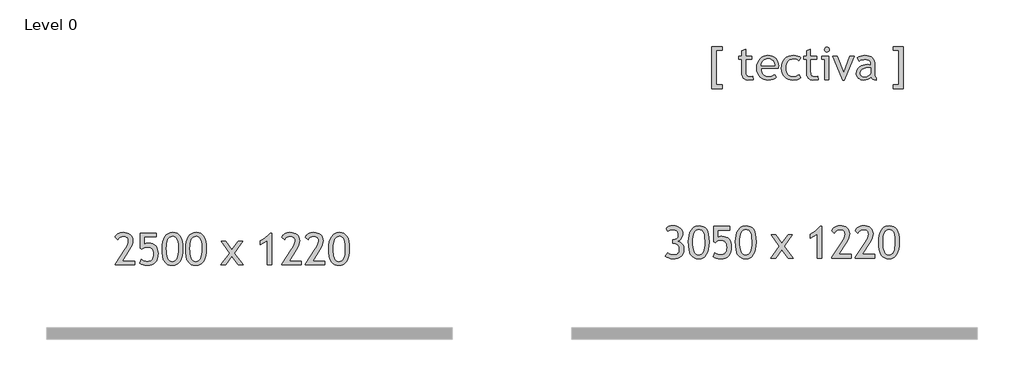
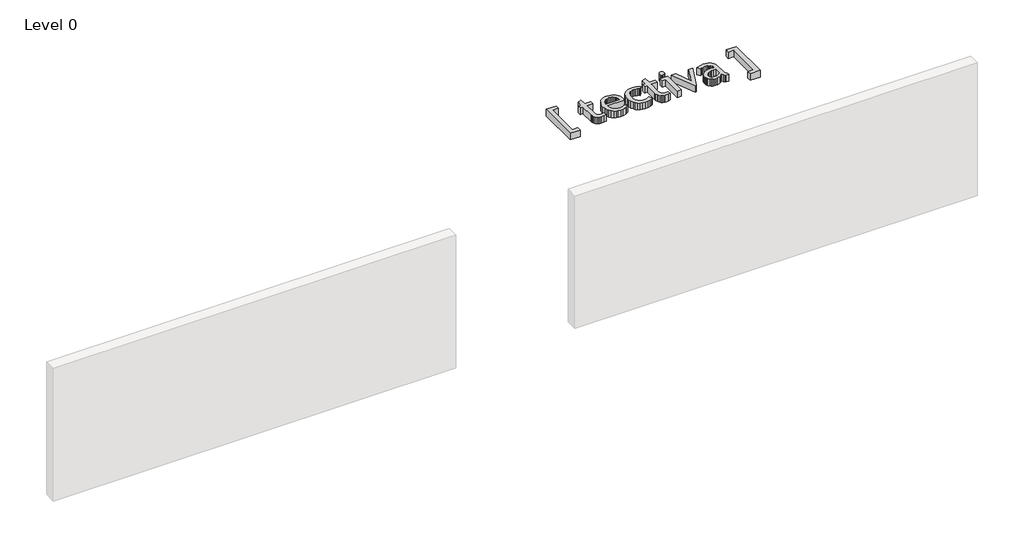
# One storey, part 5 of 5: 3 proxies.
"""IFC4 building model written with IfcOpenShell, lengths in millimetres."""

from ifc_helpers import new_model, si_unit, origin, origin_with_axes, place, context, project, spatial, polyline, outline, extrude, element, save

model = new_model("IFC4")

# Units and contexts
model_context = context("Model", 3, world=origin())
ifc_project = project(units=[si_unit("LENGTHUNIT", "METRE", prefix="MILLI")], contexts=[model_context])

# Site, building, storey
site = spatial("IfcSite", under=ifc_project)
building = spatial("IfcBuilding", under=site)
storey = spatial("IfcBuildingStorey", under=building, Name="Level 0", Elevation=0.0)

# Proxies
placement = place(None, origin())
element("IfcBuildingElementProxy", 1, Name="600mm Arial", ObjectType="600mm Arial", at=placement, inside=storey, context=model_context, shape_type="SweptSolid", body=[
    extrude(outline(polyline([(-7733.7647165, 7804.2624364), (-7733.7647165, 7822.6151906), (-7517.0539114, 8144.6226058), (-7487.2886175, 8193.3083844), (-7466.0276932, 8238.1474999), (-7453.2711386, 8279.1399522), (-7449.0189538, 8316.2857414), (-7450.6844894, 8338.0970166), (-7455.6810963, 8357.0001217), (-7464.0087744, 8372.9950568), (-7475.6675237, 8386.0818219), (-7490.6573443, 8396.260417), (-7508.9782361, 8403.5308421), (-7530.6301992, 8407.8930971), (-7555.6132334, 8409.3471821), (-7592.2492239, 8404.2955402), (-7626.5216021, 8389.1406143), (-7655.0471582, 8366.2923622), (-7674.4426826, 8338.1607414), (-7733.7647165, 8389.3259957), (-7724.0032295, 8411.6760354), (-7710.4761837, 8431.6392902), (-7693.1835791, 8449.21576), (-7672.1254157, 8464.4054448), (-7647.9852872, 8476.6522007), (-7621.4467875, 8485.3998834), (-7592.5099164, 8490.648493), (-7561.1746741, 8492.3980296), (-7515.1653389, 8489.5883434), (-7474.4625449, 8481.1592849), (-7439.0662922, 8467.110854), (-7408.9765809, 8447.4430508), (-7384.9696953, 8422.6309149), (-7367.8219199, 8393.1494861), (-7357.5332546, 8358.9987645), (-7354.1036996, 8320.1787499), (-7358.6803018, 8279.68451), (-7372.4101084, 8234.2081461), (-7395.2931196, 8183.7496583), (-7427.3293351, 8128.3090465), (-7579.5274284, 7887.3132838), (-7318.5104792, 7887.3132838), (-7318.5104792, 7804.2624364), (-7733.7647165, 7804.2624364)])), origin_with_axes(), (0.0, 0.0, 1.0), 150.0),
    extrude(outline(polyline([(-7166.8685301, 8136.4658262), (-7199.8664114, 8157.7846821), (-7199.8664114, 8480.5336228), (-6855.7986148, 8480.5336228), (-6855.7986148, 8397.4827753), (-7116.815564, 8397.4827753), (-7116.815564, 8241.577055), (-7097.5127303, 8252.68835), (-7075.7535936, 8260.6249893), (-7051.538154, 8265.3869729), (-7024.8664114, 8266.9743008), (-6978.0286532, 8263.4288823), (-6937.0651667, 8252.792627), (-6901.9759519, 8235.0655349), (-6872.7610089, 8210.2476058), (-6849.7679276, 8178.8833977), (-6833.3442981, 8141.5174681), (-6823.4901204, 8098.1498172), (-6820.2053945, 8048.7804448), (-6823.8203309, 7988.6908163), (-6834.6651402, 7936.6131382), (-6852.7398224, 7892.5474105), (-6878.0443775, 7856.4936334), (-6910.5788055, 7828.4518067), (-6950.3431063, 7808.4219305), (-6997.3372801, 7796.4040048), (-7051.5613267, 7792.3980296), (-7097.7908023, 7795.3641313), (-7139.8955428, 7804.2624364), (-7177.8755481, 7819.0929448), (-7211.7308182, 7839.8556567), (-7176.1375979, 7922.9065041), (-7143.8117239, 7902.1437923), (-7112.0883394, 7887.3132838), (-7080.9674443, 7878.4149787), (-7050.4490385, 7875.448877), (-7018.7314472, 7877.9428356), (-6991.242868, 7885.4247112), (-6967.983301, 7897.894504), (-6948.9527462, 7915.3522139), (-6934.1512035, 7937.7978409), (-6923.5786731, 7965.231385), (-6917.2351548, 7997.6528462), (-6915.1206487, 8035.0622245), (-6917.226465, 8069.951575), (-6923.5439141, 8100.1890121), (-6934.0729958, 8125.7745358), (-6948.8137101, 8146.7081461), (-6967.7660572, 8162.989843), (-6990.9300369, 8174.6196265), (-7018.3056494, 8181.5974966), (-7049.8928945, 8183.9234533), (-7081.6046927, 8180.9573516), (-7111.6712313, 8172.0590465), (-7140.0925105, 8157.228538), (-7166.8685301, 8136.4658262)])), origin_with_axes(), (0.0, 0.0, 1.0), 150.0),
    extrude(outline(polyline([(-6737.154547, 8161.6776906), (-6733.4527131, 8231.4332189), (-6722.3472112, 8294.4339141), (-6703.8380414, 8350.6797761), (-6677.9252038, 8400.170805), (-6645.3038783, 8440.5202157), (-6626.7382252, 8456.37177), (-6606.6692451, 8469.3412234), (-6585.0969381, 8479.4285761), (-6562.0213042, 8486.633828), (-6511.3600555, 8492.3980296), (-6461.4692981, 8487.5897007), (-6418.2059241, 8473.1647139), (-6381.5699337, 8449.1230693), (-6351.5613267, 8415.4647669), (-6328.2032758, 8369.8261943), (-6311.5189538, 8309.8437393), (-6301.5083606, 8235.5174019), (-6298.1714962, 8146.8471821), (-6301.6705693, 8068.7436996), (-6312.1677885, 7999.4226588), (-6329.663154, 7938.8840598), (-6354.1566657, 7887.1279025), (-6385.3818378, 7845.6835831), (-6403.4188644, 7829.4018862), (-6423.0721847, 7816.0804978), (-6444.3417987, 7805.7194179), (-6467.2277064, 7798.3186466), (-6517.8484029, 7792.3980296), (-6568.5328243, 7797.1773927), (-6612.6941392, 7811.5154819), (-6650.3323476, 7835.4122973), (-6681.4474496, 7868.8678389), (-6694.5038005, 7890.1707636), (-6705.8193047, 7915.8446331), (-6723.2277726, 7980.3052065), (-6733.6728534, 8062.249559), (-6737.154547, 8161.6776906)]), holes=[polyline([(-6642.2392928, 8153.1501482), (-6640.394169, 8088.0639128), (-6634.8587975, 8031.6558421), (-6625.6331785, 7983.9259361), (-6612.7173118, 7944.8741948), (-6596.1111976, 7914.5006183), (-6575.8148357, 7892.8052065), (-6551.8282262, 7879.7879594), (-6524.151369, 7875.448877), (-6492.6423317, 7879.2955402), (-6465.5940332, 7890.8355296), (-6443.0064736, 7910.0688452), (-6424.8796529, 7936.9954872), (-6410.9702581, 7973.5503733), (-6401.034976, 8021.6684215), (-6395.0738068, 8081.3496318), (-6393.0867504, 8152.5940041), (-6396.1455428, 8244.7053654), (-6405.3219199, 8308.5924152), (-6421.3110618, 8352.2960698), (-6432.1211122, 8369.5944676), (-6444.8081487, 8383.8572457), (-6459.3374125, 8395.0090929), (-6475.6741445, 8402.974698), (-6493.8183447, 8407.7540611), (-6513.7700131, 8409.3471821), (-6543.8800005, 8405.3441035), (-6569.975323, 8393.3348675), (-6592.0559804, 8373.3194742), (-6610.1219729, 8345.2979236), (-6624.1733003, 8309.2702157), (-6634.2099628, 8265.2363505), (-6640.2319603, 8213.196328), (-6642.2392928, 8153.1501482)])]), origin_with_axes(), (0.0, 0.0, 1.0), 150.0),
    extrude(outline(polyline([(-6238.8494623, 8161.6776906), (-6235.1476283, 8231.4332189), (-6224.0421265, 8294.4339141), (-6205.5329567, 8350.6797761), (-6179.620119, 8400.170805), (-6146.9987936, 8440.5202157), (-6128.4331404, 8456.37177), (-6108.3641604, 8469.3412234), (-6086.7918534, 8479.4285761), (-6063.7162194, 8486.633828), (-6013.0549707, 8492.3980296), (-5963.1642133, 8487.5897007), (-5919.9008394, 8473.1647139), (-5883.2648489, 8449.1230693), (-5853.2562419, 8415.4647669), (-5829.8981911, 8369.8261943), (-5813.213869, 8309.8437393), (-5803.2032758, 8235.5174019), (-5799.8664114, 8146.8471821), (-5803.3654845, 8068.7436996), (-5813.8627038, 7999.4226588), (-5831.3580693, 7938.8840598), (-5855.8515809, 7887.1279025), (-5887.076753, 7845.6835831), (-5905.1137797, 7829.4018862), (-5924.7671, 7816.0804978), (-5946.036714, 7805.7194179), (-5968.9226217, 7798.3186466), (-6019.5433182, 7792.3980296), (-6070.2277395, 7797.1773927), (-6114.3890544, 7811.5154819), (-6152.0272628, 7835.4122973), (-6183.1423648, 7868.8678389), (-6196.1987158, 7890.1707636), (-6207.5142199, 7915.8446331), (-6224.9226879, 7980.3052065), (-6235.3677687, 8062.249559), (-6238.8494623, 8161.6776906)]), holes=[polyline([(-6143.934208, 8153.1501482), (-6142.0890842, 8088.0639128), (-6136.5537128, 8031.6558421), (-6127.3280938, 7983.9259361), (-6114.4122271, 7944.8741948), (-6097.8061128, 7914.5006183), (-6077.5097509, 7892.8052065), (-6053.5231414, 7879.7879594), (-6025.8462843, 7875.448877), (-5994.337247, 7879.2955402), (-5967.2889485, 7890.8355296), (-5944.7013889, 7910.0688452), (-5926.5745682, 7936.9954872), (-5912.6651733, 7973.5503733), (-5902.7298913, 8021.6684215), (-5896.7687221, 8081.3496318), (-5894.7816657, 8152.5940041), (-5897.840458, 8244.7053654), (-5907.0168351, 8308.5924152), (-5923.0059771, 8352.2960698), (-5933.8160274, 8369.5944676), (-5946.503064, 8383.8572457), (-5961.0323277, 8395.0090929), (-5977.3690597, 8402.974698), (-5995.5132599, 8407.7540611), (-6015.4649284, 8409.3471821), (-6045.5749158, 8405.3441035), (-6071.6702382, 8393.3348675), (-6093.7508957, 8373.3194742), (-6111.8168881, 8345.2979236), (-6125.8682156, 8309.2702157), (-6135.904878, 8265.2363505), (-6141.9268755, 8213.196328), (-6143.934208, 8153.1501482)])]), origin_with_axes(), (0.0, 0.0, 1.0), 150.0),
    extrude(outline(polyline([(-5123.595225, 7804.2624364), (-5254.1036996, 7987.0484533), (-5384.6121741, 7804.2624364), (-5491.3918351, 7804.2624364), (-5304.1566657, 8057.1226058), (-5479.5274284, 8302.5675211), (-5384.6121741, 8302.5675211), (-5254.1036996, 8124.6014194), (-5123.595225, 8302.5675211), (-5028.6799707, 8302.5675211), (-5204.0507334, 8057.1226058), (-5016.815564, 7804.2624364), (-5123.595225, 7804.2624364)])), origin_with_axes(), (0.0, 0.0, 1.0), 150.0),
    extrude(outline(polyline([(-4506.6460724, 7804.2624364), (-4506.6460724, 8318.139555), (-4649.0189538, 8231.3810804), (-4649.0189538, 8314.4319279), (-4594.4936625, 8346.8504925), (-4536.5851614, 8389.6040677), (-4483.681957, 8436.2969967), (-4444.1725555, 8480.5336228), (-4411.7308182, 8480.5336228), (-4411.7308182, 7804.2624364), (-4506.6460724, 7804.2624364)])), origin_with_axes(), (0.0, 0.0, 1.0), 150.0),
    extrude(outline(polyline([(-4198.1714962, 7804.2624364), (-4198.1714962, 7822.6151906), (-3981.4606911, 8144.6226058), (-3951.6953971, 8193.3083844), (-3930.4344729, 8238.1474999), (-3917.6779183, 8279.1399522), (-3913.4257334, 8316.2857414), (-3915.0912691, 8338.0970166), (-3920.0878759, 8357.0001217), (-3928.415554, 8372.9950568), (-3940.0743034, 8386.0818219), (-3955.0641239, 8396.260417), (-3973.3850158, 8403.5308421), (-3995.0369788, 8407.8930971), (-4020.0200131, 8409.3471821), (-4056.6560036, 8404.2955402), (-4090.9283818, 8389.1406143), (-4119.4539379, 8366.2923622), (-4138.8494623, 8338.1607414), (-4198.1714962, 8389.3259957), (-4188.4100091, 8411.6760354), (-4174.8829633, 8431.6392902), (-4157.5903587, 8449.21576), (-4136.5321953, 8464.4054448), (-4112.3920669, 8476.6522007), (-4085.8535671, 8485.3998834), (-4056.9166961, 8490.648493), (-4025.5814538, 8492.3980296), (-3979.5721185, 8489.5883434), (-3938.8693246, 8481.1592849), (-3903.4730719, 8467.110854), (-3873.3833606, 8447.4430508), (-3849.376475, 8422.6309149), (-3832.2286996, 8393.1494861), (-3821.9400343, 8358.9987645), (-3818.5104792, 8320.1787499), (-3823.0870814, 8279.68451), (-3836.8168881, 8234.2081461), (-3859.6998992, 8183.7496583), (-3891.7361148, 8128.3090465), (-4043.934208, 7887.3132838), (-3782.9172589, 7887.3132838), (-3782.9172589, 7804.2624364), (-4198.1714962, 7804.2624364)])), origin_with_axes(), (0.0, 0.0, 1.0), 150.0),
    extrude(outline(polyline([(-3699.8664114, 7804.2624364), (-3699.8664114, 7822.6151906), (-3483.1556063, 8144.6226058), (-3453.3903124, 8193.3083844), (-3432.1293881, 8238.1474999), (-3419.3728336, 8279.1399522), (-3415.1206487, 8316.2857414), (-3416.7861843, 8338.0970166), (-3421.7827912, 8357.0001217), (-3430.1104693, 8372.9950568), (-3441.7692186, 8386.0818219), (-3456.7590392, 8396.260417), (-3475.079931, 8403.5308421), (-3496.7318941, 8407.8930971), (-3521.7149284, 8409.3471821), (-3558.3509188, 8404.2955402), (-3592.623297, 8389.1406143), (-3621.1488532, 8366.2923622), (-3640.5443775, 8338.1607414), (-3699.8664114, 8389.3259957), (-3690.1049244, 8411.6760354), (-3676.5778786, 8431.6392902), (-3659.285274, 8449.21576), (-3638.2271106, 8464.4054448), (-3614.0869821, 8476.6522007), (-3587.5484824, 8485.3998834), (-3558.6116114, 8490.648493), (-3527.276369, 8492.3980296), (-3481.2670338, 8489.5883434), (-3440.5642398, 8481.1592849), (-3405.1679872, 8467.110854), (-3375.0782758, 8447.4430508), (-3351.0713902, 8422.6309149), (-3333.9236148, 8393.1494861), (-3323.6349496, 8358.9987645), (-3320.2053945, 8320.1787499), (-3324.7819967, 8279.68451), (-3338.5118034, 8234.2081461), (-3361.3948145, 8183.7496583), (-3393.4310301, 8128.3090465), (-3545.6291233, 7887.3132838), (-3284.6121741, 7887.3132838), (-3284.6121741, 7804.2624364), (-3699.8664114, 7804.2624364)])), origin_with_axes(), (0.0, 0.0, 1.0), 150.0),
    extrude(outline(polyline([(-3201.5613267, 8161.6776906), (-3197.8594927, 8231.4332189), (-3186.7539909, 8294.4339141), (-3168.2448211, 8350.6797761), (-3142.3319834, 8400.170805), (-3109.710658, 8440.5202157), (-3091.1450048, 8456.37177), (-3071.0760248, 8469.3412234), (-3049.5037178, 8479.4285761), (-3026.4280838, 8486.633828), (-2975.7668351, 8492.3980296), (-2925.8760777, 8487.5897007), (-2882.6127038, 8473.1647139), (-2845.9767133, 8449.1230693), (-2815.9681063, 8415.4647669), (-2792.6100555, 8369.8261943), (-2775.9257334, 8309.8437393), (-2765.9151402, 8235.5174019), (-2762.5782758, 8146.8471821), (-2766.0773489, 8068.7436996), (-2776.5745682, 7999.4226588), (-2794.0699337, 7938.8840598), (-2818.5634453, 7887.1279025), (-2849.7886175, 7845.6835831), (-2867.8256441, 7829.4018862), (-2887.4789644, 7816.0804978), (-2908.7485784, 7805.7194179), (-2931.6344861, 7798.3186466), (-2982.2551826, 7792.3980296), (-3032.9396039, 7797.1773927), (-3077.1009188, 7811.5154819), (-3114.7391273, 7835.4122973), (-3145.8542292, 7868.8678389), (-3158.9105802, 7890.1707636), (-3170.2260843, 7915.8446331), (-3187.6345523, 7980.3052065), (-3198.0796331, 8062.249559), (-3201.5613267, 8161.6776906)]), holes=[polyline([(-3106.6460724, 8153.1501482), (-3104.8009486, 8088.0639128), (-3099.2655772, 8031.6558421), (-3090.0399582, 7983.9259361), (-3077.1240915, 7944.8741948), (-3060.5179772, 7914.5006183), (-3040.2216153, 7892.8052065), (-3016.2350058, 7879.7879594), (-2988.5581487, 7875.448877), (-2957.0491114, 7879.2955402), (-2930.0008129, 7890.8355296), (-2907.4132533, 7910.0688452), (-2889.2864326, 7936.9954872), (-2875.3770377, 7973.5503733), (-2865.4417557, 8021.6684215), (-2859.4805865, 8081.3496318), (-2857.4935301, 8152.5940041), (-2860.5523224, 8244.7053654), (-2869.7286996, 8308.5924152), (-2885.7178415, 8352.2960698), (-2896.5278918, 8369.5944676), (-2909.2149284, 8383.8572457), (-2923.7441921, 8395.0090929), (-2940.0809241, 8402.974698), (-2958.2251243, 8407.7540611), (-2978.1767928, 8409.3471821), (-3008.2867802, 8405.3441035), (-3034.3821026, 8393.3348675), (-3056.4627601, 8373.3194742), (-3074.5287525, 8345.2979236), (-3088.58008, 8309.2702157), (-3098.6167425, 8265.2363505), (-3104.6387399, 8213.196328), (-3106.6460724, 8153.1501482)])]), origin_with_axes(), (0.0, 0.0, 1.0), 150.0),
])
element("IfcBuildingElementProxy", 2, Name="600mm Arial", ObjectType="600mm Arial", at=placement, inside=storey, context=model_context, shape_type="SweptSolid", body=[
    extrude(outline(polyline([(3939.5915612, 7993.7247162), (3987.0491883, 8064.9111569), (4011.7744267, 8044.148445), (4039.6048027, 8029.3179365), (4070.5403165, 8020.4196315), (4104.580968, 8017.4535298), (4135.4295842, 8019.3739647), (4162.1650517, 8025.1352697), (4184.7873703, 8034.7374446), (4203.29654, 8048.1804895), (4217.6925609, 8065.4644044), (4227.975433, 8086.5891892), (4234.1451563, 8111.554844), (4236.2017307, 8140.3613687), (4233.8902569, 8167.125802), (4226.9558356, 8191.2485509), (4215.3984667, 8212.7296156), (4199.2181502, 8231.5689959), (4179.2143432, 8246.8977167), (4156.1865029, 8257.8468031), (4130.1346293, 8264.4162549), (4101.0587222, 8266.6060721), (4093.8288493, 8266.6060721), (4093.8288493, 8337.7925128), (4097.9072392, 8337.7925128), (4124.7585699, 8339.4232894), (4148.0297233, 8344.3156193), (4167.7206992, 8352.4695024), (4183.8314976, 8363.8849387), (4196.3621187, 8378.5619282), (4205.3125623, 8396.500471), (4210.6828284, 8417.700567), (4212.4729171, 8442.1622162), (4210.5843446, 8467.7535331), (4204.9186269, 8489.9326744), (4195.4757641, 8508.6996401), (4182.2557561, 8524.0544302), (4165.258603, 8535.9970447), (4144.4843048, 8544.5274837), (4119.9328615, 8549.6457471), (4091.6042731, 8551.3518348), (4060.4602053, 8549.1272586), (4032.6530019, 8542.4535298), (4008.1826629, 8531.3306484), (3987.0491883, 8515.7586145), (3951.455968, 8575.0806484), (3977.4325305, 8601.0340382), (4010.8706926, 8619.5721738), (4051.7704542, 8630.6950552), (4100.1318154, 8634.4026823), (4143.8122974, 8631.4481669), (4183.2753536, 8622.5846209), (4218.5209839, 8607.8120441), (4249.5491883, 8587.1304365), (4274.8537434, 8561.8258815), (4292.9284256, 8533.184462), (4303.7732349, 8501.2061781), (4307.3881714, 8465.8910298), (4305.3953218, 8438.6052114), (4299.4167731, 8412.9183073), (4289.4525252, 8388.8303174), (4275.5025781, 8366.3412416), (4258.8646015, 8346.4359185), (4240.8362646, 8330.0991865), (4221.4175676, 8317.3310457), (4200.6085104, 8308.1314959), (4229.01241, 8296.9159238), (4254.3459309, 8282.3634874), (4276.6090731, 8264.4741865), (4295.8018366, 8243.2480213), (4311.252214, 8219.148445), (4322.2881979, 8192.6389111), (4328.9097882, 8163.7194196), (4331.1169849, 8132.3899704), (4327.3224603, 8087.7188568), (4315.9388864, 8048.4353889), (4296.9662633, 8014.5395666), (4270.4045909, 7986.0313899), (4236.9953946, 7963.4438303), (4197.4802, 7947.3098592), (4151.8590069, 7937.6294765), (4100.1318154, 7934.4026823), (4054.4584839, 7938.7591442), (4009.7584044, 7951.8285298), (3970.1099669, 7971.0155001), (3939.5915612, 7993.7247162)])), origin_with_axes(), (0.0, 0.0, 1.0), 150.0),
    extrude(outline(polyline([(4426.0322392, 8303.6823433), (4429.7340731, 8373.4378717), (4440.839575, 8436.4385668), (4459.3487447, 8492.6844289), (4485.2615824, 8542.1754577), (4517.8829079, 8582.5248685), (4536.448561, 8598.3764227), (4556.5175411, 8611.3458762), (4578.0898481, 8621.4332288), (4601.165482, 8628.6384808), (4651.8267307, 8634.4026823), (4701.7174881, 8629.5943534), (4744.980862, 8615.1693666), (4781.6168525, 8591.127722), (4811.6254595, 8557.4694196), (4834.9835104, 8511.830847), (4851.6678324, 8451.848392), (4861.6784256, 8377.5220547), (4865.01529, 8288.8518348), (4861.5162169, 8210.7483523), (4851.0189976, 8141.4273115), (4833.5236322, 8080.8887125), (4809.0301205, 8029.1325552), (4777.8049484, 7987.6882358), (4759.7679218, 7971.4065389), (4740.1146015, 7958.0851505), (4718.8449874, 7947.7240707), (4695.9590797, 7940.3232994), (4645.3383832, 7934.4026823), (4594.6539619, 7939.1820454), (4550.492647, 7953.5201346), (4512.8544386, 7977.41695), (4481.7393366, 8010.8724916), (4468.6829857, 8032.1754163), (4457.3674815, 8057.8492859), (4439.9590135, 8122.3098592), (4429.5139328, 8204.2542117), (4426.0322392, 8303.6823433)]), holes=[polyline([(4520.9474934, 8295.1548009), (4522.7926172, 8230.0685655), (4528.3279886, 8173.6604948), (4537.5536077, 8125.9305888), (4550.4694743, 8086.8788476), (4567.0755886, 8056.505271), (4587.3719505, 8034.8098592), (4611.35856, 8021.7926121), (4639.0354171, 8017.4535298), (4670.5444545, 8021.3001929), (4697.5927529, 8032.8401823), (4720.1803125, 8052.073498), (4738.3071332, 8079.0001399), (4752.2165281, 8115.5550261), (4762.1518101, 8163.6730743), (4768.1129794, 8223.3542845), (4770.1000358, 8294.5986569), (4767.0412434, 8386.7100181), (4757.8648663, 8450.5970679), (4741.8757243, 8494.3007226), (4731.065674, 8511.5991203), (4718.3786375, 8525.8618984), (4703.8493737, 8537.0137456), (4687.5126417, 8544.9793507), (4669.3684415, 8549.7587138), (4649.4167731, 8551.3518348), (4619.3067856, 8547.3487562), (4593.2114632, 8535.3395202), (4571.1308058, 8515.324127), (4553.0648133, 8487.3025764), (4539.0134859, 8451.2748685), (4528.9768234, 8407.2410033), (4522.9548259, 8355.2009808), (4520.9474934, 8295.1548009)])]), origin_with_axes(), (0.0, 0.0, 1.0), 150.0),
    extrude(outline(polyline([(4992.9284256, 8278.4704789), (4959.9305443, 8299.7893348), (4959.9305443, 8622.5382755), (5303.9983409, 8622.5382755), (5303.9983409, 8539.4874281), (5042.9813917, 8539.4874281), (5042.9813917, 8383.5817077), (5062.2842254, 8394.6930027), (5084.043362, 8402.629642), (5108.2588017, 8407.3916256), (5134.9305443, 8408.9789535), (5181.7683025, 8405.4335351), (5222.731789, 8394.7972798), (5257.8210037, 8377.0701876), (5287.0359468, 8352.2522586), (5310.0290281, 8320.8880504), (5326.4526576, 8283.5221209), (5336.3068353, 8240.1544699), (5339.5915612, 8190.7850976), (5335.9766248, 8130.695469), (5325.1318154, 8078.6177909), (5307.0571332, 8034.5520633), (5281.7525781, 7998.4982861), (5249.2181502, 7970.4564594), (5209.4538493, 7950.4265833), (5162.4596756, 7938.4086575), (5108.235629, 7934.4026823), (5062.0061534, 7937.368784), (5019.9014129, 7946.2670891), (4981.9214076, 7961.0975976), (4948.0661375, 7981.8603094), (4983.6593578, 8064.9111569), (5015.9852318, 8044.148445), (5047.7086163, 8029.3179365), (5078.8295114, 8020.4196315), (5109.3479171, 8017.4535298), (5141.0655085, 8019.9474883), (5168.5540877, 8027.429364), (5191.8136547, 8039.8991567), (5210.8442095, 8057.3568666), (5225.6457521, 8079.8024936), (5236.2182826, 8107.2360377), (5242.5618009, 8139.6574989), (5244.676307, 8177.0668772), (5242.5704906, 8211.9562277), (5236.2530416, 8242.1936648), (5225.7239599, 8267.7791885), (5210.9832455, 8288.7127988), (5192.0308985, 8304.9944957), (5168.8669187, 8316.6242792), (5141.4913063, 8323.6021493), (5109.9040612, 8325.928106), (5078.192263, 8322.9620043), (5048.1257243, 8314.0636993), (5019.7044452, 8299.2331908), (4992.9284256, 8278.4704789)])), origin_with_axes(), (0.0, 0.0, 1.0), 150.0),
    extrude(outline(polyline([(5422.6424087, 8303.6823433), (5426.3442426, 8373.4378717), (5437.4497445, 8436.4385668), (5455.9589142, 8492.6844289), (5481.8717519, 8542.1754577), (5514.4930774, 8582.5248685), (5533.0587305, 8598.3764227), (5553.1277106, 8611.3458762), (5574.7000176, 8621.4332288), (5597.7756515, 8628.6384808), (5648.4369002, 8634.4026823), (5698.3276576, 8629.5943534), (5741.5910315, 8615.1693666), (5778.227022, 8591.127722), (5808.235629, 8557.4694196), (5831.5936798, 8511.830847), (5848.2780019, 8451.848392), (5858.2885951, 8377.5220547), (5861.6254595, 8288.8518348), (5858.1263864, 8210.7483523), (5847.6291671, 8141.4273115), (5830.1338017, 8080.8887125), (5805.64029, 8029.1325552), (5774.4151179, 7987.6882358), (5756.3780913, 7971.4065389), (5736.7247709, 7958.0851505), (5715.4551569, 7947.7240707), (5692.5692492, 7940.3232994), (5641.9485527, 7934.4026823), (5591.2641314, 7939.1820454), (5547.1028165, 7953.5201346), (5509.4646081, 7977.41695), (5478.3495061, 8010.8724916), (5465.2931551, 8032.1754163), (5453.977651, 8057.8492859), (5436.569183, 8122.3098592), (5426.1241022, 8204.2542117), (5422.6424087, 8303.6823433)]), holes=[polyline([(5517.5576629, 8295.1548009), (5519.4027867, 8230.0685655), (5524.9381581, 8173.6604948), (5534.1637772, 8125.9305888), (5547.0796438, 8086.8788476), (5563.6857581, 8056.505271), (5583.98212, 8034.8098592), (5607.9687295, 8021.7926121), (5635.6455866, 8017.4535298), (5667.154624, 8021.3001929), (5694.2029224, 8032.8401823), (5716.790482, 8052.073498), (5734.9173027, 8079.0001399), (5748.8266976, 8115.5550261), (5758.7619796, 8163.6730743), (5764.7231489, 8223.3542845), (5766.7102053, 8294.5986569), (5763.6514129, 8386.7100181), (5754.4750358, 8450.5970679), (5738.4858938, 8494.3007226), (5727.6758435, 8511.5991203), (5714.988807, 8525.8618984), (5700.4595432, 8537.0137456), (5684.1228112, 8544.9793507), (5665.978611, 8549.7587138), (5646.0269426, 8551.3518348), (5615.9169551, 8547.3487562), (5589.8216327, 8535.3395202), (5567.7409753, 8515.324127), (5549.6749828, 8487.3025764), (5535.6236553, 8451.2748685), (5525.5869929, 8407.2410033), (5519.5649954, 8355.2009808), (5517.5576629, 8295.1548009)])]), origin_with_axes(), (0.0, 0.0, 1.0), 150.0),
    extrude(outline(polyline([(6537.8966459, 7946.2670891), (6407.3881714, 8129.053106), (6276.8796968, 7946.2670891), (6170.1000358, 7946.2670891), (6357.3352053, 8199.1272586), (6181.9644426, 8444.5721738), (6276.8796968, 8444.5721738), (6407.3881714, 8266.6060721), (6537.8966459, 8444.5721738), (6632.8119002, 8444.5721738), (6457.4411375, 8199.1272586), (6644.676307, 7946.2670891), (6537.8966459, 7946.2670891)])), origin_with_axes(), (0.0, 0.0, 1.0), 150.0),
    extrude(outline(polyline([(7154.8457985, 7946.2670891), (7154.8457985, 8460.1442077), (7012.4729171, 8373.3857332), (7012.4729171, 8456.4365806), (7066.9982084, 8488.8551452), (7124.9067095, 8531.6087204), (7177.809914, 8578.3016495), (7217.3193154, 8622.5382755), (7249.7610527, 8622.5382755), (7249.7610527, 7946.2670891), (7154.8457985, 7946.2670891)])), origin_with_axes(), (0.0, 0.0, 1.0), 150.0),
    extrude(outline(polyline([(7463.3203748, 7946.2670891), (7463.3203748, 7964.6198433), (7680.0311798, 8286.6272586), (7709.7964738, 8335.3130372), (7731.0573981, 8380.1521526), (7743.8139526, 8421.144605), (7748.0661375, 8458.2903942), (7746.4006019, 8480.1016693), (7741.403995, 8499.0047745), (7733.0763169, 8514.9997096), (7721.4175676, 8528.0864747), (7706.427747, 8538.2650698), (7688.1068552, 8545.5354948), (7666.4548921, 8549.8977498), (7641.4718578, 8551.3518348), (7604.8358673, 8546.3001929), (7570.5634892, 8531.145267), (7542.037933, 8508.2970149), (7522.6424087, 8480.1653942), (7463.3203748, 8531.3306484), (7473.0818618, 8553.6806881), (7486.6089076, 8573.6439429), (7503.9015122, 8591.2204127), (7524.9596756, 8606.4100976), (7549.0998041, 8618.6568534), (7575.6383038, 8627.4045361), (7604.5751748, 8632.6531458), (7635.9104171, 8634.4026823), (7681.9197524, 8631.5929961), (7722.6225464, 8623.1639376), (7758.018799, 8609.1155067), (7788.1085104, 8589.4477035), (7812.1153959, 8564.6355676), (7829.2631714, 8535.1541389), (7839.5518366, 8501.0034172), (7842.9813917, 8462.1834026), (7838.4047895, 8421.6891627), (7824.6749828, 8376.2127988), (7801.7919717, 8325.754311), (7769.7557561, 8270.3136993), (7617.5576629, 8029.3179365), (7878.574612, 8029.3179365), (7878.574612, 7946.2670891), (7463.3203748, 7946.2670891)])), origin_with_axes(), (0.0, 0.0, 1.0), 150.0),
    extrude(outline(polyline([(7961.6254595, 7946.2670891), (7961.6254595, 7964.6198433), (8178.3362646, 8286.6272586), (8208.1015586, 8335.3130372), (8229.3624828, 8380.1521526), (8242.1190374, 8421.144605), (8246.3712222, 8458.2903942), (8244.7056866, 8480.1016693), (8239.7090797, 8499.0047745), (8231.3814016, 8514.9997096), (8219.7226523, 8528.0864747), (8204.7328317, 8538.2650698), (8186.4119399, 8545.5354948), (8164.7599769, 8549.8977498), (8139.7769426, 8551.3518348), (8103.1409521, 8546.3001929), (8068.8685739, 8531.145267), (8040.3430178, 8508.2970149), (8020.9474934, 8480.1653942), (7961.6254595, 8531.3306484), (7971.3869465, 8553.6806881), (7984.9139923, 8573.6439429), (8002.206597, 8591.2204127), (8023.2647604, 8606.4100976), (8047.4048888, 8618.6568534), (8073.9433885, 8627.4045361), (8102.8802596, 8632.6531458), (8134.2155019, 8634.4026823), (8180.2248372, 8631.5929961), (8220.9276311, 8623.1639376), (8256.3238838, 8609.1155067), (8286.4135951, 8589.4477035), (8310.4204807, 8564.6355676), (8327.5682561, 8535.1541389), (8337.8569214, 8501.0034172), (8341.2864765, 8462.1834026), (8336.7098742, 8421.6891627), (8322.9800676, 8376.2127988), (8300.0970564, 8325.754311), (8268.0608409, 8270.3136993), (8115.8627476, 8029.3179365), (8376.8796968, 8029.3179365), (8376.8796968, 7946.2670891), (7961.6254595, 7946.2670891)])), origin_with_axes(), (0.0, 0.0, 1.0), 150.0),
    extrude(outline(polyline([(8459.9305443, 8303.6823433), (8463.6323782, 8373.4378717), (8474.7378801, 8436.4385668), (8493.2470498, 8492.6844289), (8519.1598875, 8542.1754577), (8551.7812129, 8582.5248685), (8570.3468661, 8598.3764227), (8590.4158462, 8611.3458762), (8611.9881532, 8621.4332288), (8635.0637871, 8628.6384808), (8685.7250358, 8634.4026823), (8735.6157932, 8629.5943534), (8778.8791671, 8615.1693666), (8815.5151576, 8591.127722), (8845.5237646, 8557.4694196), (8868.8818154, 8511.830847), (8885.5661375, 8451.848392), (8895.5767307, 8377.5220547), (8898.9135951, 8288.8518348), (8895.414522, 8210.7483523), (8884.9173027, 8141.4273115), (8867.4219373, 8080.8887125), (8842.9284256, 8029.1325552), (8811.7032535, 7987.6882358), (8793.6662269, 7971.4065389), (8774.0129065, 7958.0851505), (8752.7432925, 7947.7240707), (8729.8573848, 7940.3232994), (8679.2366883, 7934.4026823), (8628.552267, 7939.1820454), (8584.3909521, 7953.5201346), (8546.7527437, 7977.41695), (8515.6376417, 8010.8724916), (8502.5812907, 8032.1754163), (8491.2657866, 8057.8492859), (8473.8573186, 8122.3098592), (8463.4122378, 8204.2542117), (8459.9305443, 8303.6823433)]), holes=[polyline([(8554.8457985, 8295.1548009), (8556.6909223, 8230.0685655), (8562.2262937, 8173.6604948), (8571.4519128, 8125.9305888), (8584.3677794, 8086.8788476), (8600.9738937, 8056.505271), (8621.2702556, 8034.8098592), (8645.2568651, 8021.7926121), (8672.9337222, 8017.4535298), (8704.4427596, 8021.3001929), (8731.491058, 8032.8401823), (8754.0786176, 8052.073498), (8772.2054383, 8079.0001399), (8786.1148332, 8115.5550261), (8796.0501152, 8163.6730743), (8802.0112845, 8223.3542845), (8803.9983409, 8294.5986569), (8800.9395485, 8386.7100181), (8791.7631714, 8450.5970679), (8775.7740294, 8494.3007226), (8764.9639791, 8511.5991203), (8752.2769426, 8525.8618984), (8737.7476788, 8537.0137456), (8721.4109468, 8544.9793507), (8703.2667466, 8549.7587138), (8683.3150781, 8551.3518348), (8653.2050907, 8547.3487562), (8627.1097683, 8535.3395202), (8605.0291109, 8515.324127), (8586.9631184, 8487.3025764), (8572.9117909, 8451.2748685), (8562.8751285, 8407.2410033), (8556.853131, 8355.2009808), (8554.8457985, 8295.1548009)])]), origin_with_axes(), (0.0, 0.0, 1.0), 150.0),
])
element("IfcBuildingElementProxy", 3, Name="600mm Arial", ObjectType="600mm Arial", at=placement, inside=storey, context=model_context, shape_type="SweptSolid", body=[
    extrude(outline(polyline([(4925.7778515, 11545.6264729), (4925.7778515, 12435.4569813), (5139.3371735, 12435.4569813), (5139.3371735, 12352.4061339), (5020.6931057, 12352.4061339), (5020.6931057, 11628.6773203), (5139.3371735, 11628.6773203), (5139.3371735, 11545.6264729), (4925.7778515, 11545.6264729)])), origin_with_axes(), (0.0, 0.0, 1.0), 150.0),
    extrude(outline(polyline([(5554.5914108, 12162.5756254), (5495.2693769, 12162.5756254), (5495.2693769, 12233.7620661), (5554.5914108, 12233.7620661), (5554.5914108, 12341.0978712), (5637.6422583, 12376.1349474), (5637.6422583, 12233.7620661), (5768.1507328, 12233.7620661), (5768.1507328, 12162.5756254), (5637.6422583, 12162.5756254), (5637.6422583, 11912.1254135), (5642.7402456, 11857.7159856), (5649.1127297, 11837.3935544), (5658.0342074, 11821.6593118), (5669.7827508, 11809.8991821), (5684.636432, 11801.4990894), (5702.5952508, 11796.4590338), (5723.6592074, 11794.7790152), (5756.8424701, 11797.7451169), (5791.138021, 11806.643422), (5803.7439532, 11736.1985067), (5748.7783811, 11726.7440576), (5688.8075125, 11723.5925745), (5661.6433507, 11726.3501222), (5636.6921788, 11734.6227652), (5613.9539969, 11748.4105036), (5593.4288049, 11767.7133373), (5576.437445, 11791.2104241), (5564.3007593, 11817.580922), (5557.0187479, 11846.8248309), (5554.5914108, 11878.9421508), (5554.5914108, 12162.5756254)])), origin_with_axes(), (0.0, 0.0, 1.0), 150.0),
    extrude(outline(polyline([(6330.5977667, 11972.7451169), (5969.8456481, 11972.7451169), (5972.8349225, 11930.9184485), (5981.8027456, 11894.2361127), (5996.7491174, 11862.6981095), (6017.6740379, 11836.304439), (6040.3948404, 11818.1370661), (6066.1049172, 11805.1603712), (6094.8042683, 11797.3743542), (6126.4928939, 11794.7790152), (6162.8276396, 11797.7451169), (6196.0109023, 11806.643422), (6226.042682, 11821.4739305), (6252.9229786, 11842.2366423), (6290.1846311, 11782.9146084), (6264.1385506, 11762.3372779), (6227.1549701, 11744.7260491), (6170.8917286, 11728.8759432), (6108.5109023, 11723.5925745), (6063.1156428, 11727.6130327), (6021.2889744, 11739.6744072), (5983.030897, 11759.776698), (5948.3414108, 11787.9199051), (5916.2240909, 11826.4676408), (5893.2831481, 11871.1097885), (5879.5185824, 11921.8463484), (5874.9303939, 11978.6773203), (5879.6460321, 12037.8834909), (5893.7929468, 12090.9257313), (5917.371138, 12137.8040417), (5950.3806057, 12178.518422), (5985.6725814, 12207.8781942), (6024.0696947, 12228.8494601), (6065.5719458, 12241.4322197), (6110.1793345, 12245.6264729), (6161.0201714, 12241.7913961), (6206.0214956, 12230.2861656), (6245.183307, 12211.1107816), (6278.5056057, 12184.265244), (6304.3778912, 12152.3796508), (6322.8580951, 12115.6741423), (6333.9462175, 12074.1487186), (6337.6422583, 12027.8033796), (6335.8811354, 11999.1156148), (6330.5977667, 11972.7451169)]), holes=[polyline([(6116.8530633, 12174.4400322), (6087.5859818, 12171.7983479), (6060.7752032, 12163.8732949), (6036.4207275, 12150.6648733), (6014.5225549, 12132.173083), (5996.9229124, 12110.8310544), (5983.6102138, 12087.0327229), (5974.584459, 12060.7780883), (5969.8456481, 12032.0671508), (6254.5914108, 12032.0671508), (6252.4363525, 12060.5000163), (6245.9711778, 12086.4765788), (6235.1958864, 12109.9968383), (6220.1104786, 12131.0607949), (6199.4056984, 12150.0392112), (6175.2945358, 12163.5952229), (6147.7769908, 12171.7288298), (6116.8530633, 12174.4400322)])]), origin_with_axes(), (0.0, 0.0, 1.0), 150.0),
    extrude(outline(polyline([(6812.2185295, 12198.1688457), (6767.727004, 12138.8468118), (6748.8876237, 12151.2905354), (6719.4351608, 12163.0390788), (6684.9774013, 12171.5897938), (6651.1221311, 12174.4400322), (6616.3978859, 12171.1842721), (6585.4507858, 12161.4169919), (6558.2808308, 12145.1381916), (6534.888021, 12122.3478712), (6516.0718133, 12093.891833), (6502.631665, 12060.6158796), (6494.5675761, 12022.520011), (6491.8795464, 11979.6042271), (6494.6023351, 11937.1518966), (6502.7707011, 11900.0756254), (6516.3846444, 11868.3754135), (6535.444165, 11842.051261), (6559.3351873, 11821.3696535), (6587.4436354, 11806.5970767), (6619.7695093, 11797.7335306), (6656.3128091, 11794.7790152), (6686.3214161, 11797.7451169), (6716.4690591, 11806.643422), (6746.7557381, 11821.4739305), (6777.1814532, 11842.2366423), (6812.2185295, 11771.0502017), (6774.1226608, 11750.2874898), (6731.763021, 11735.4569813), (6685.13961, 11726.5586762), (6634.2524278, 11723.5925745), (6585.0394709, 11727.9084842), (6540.287253, 11740.8562133), (6499.9957739, 11762.4357618), (6464.1650337, 11792.6471296), (6434.7647093, 11830.2274064), (6413.7644775, 11873.9136815), (6401.1643385, 11923.7059551), (6396.9642922, 11979.6042271), (6401.355513, 12036.7943754), (6414.5291756, 12088.0523203), (6436.48528, 12133.3780618), (6467.2238261, 12172.7716), (6505.5861804, 12204.6456069), (6550.4137095, 12227.4127546), (6601.7064135, 12241.0730433), (6659.4642922, 12245.6264729), (6700.4103992, 12241.756637), (6744.6470252, 12230.1471296), (6784.4808441, 12214.412887), (6812.2185295, 12198.1688457)])), origin_with_axes(), (0.0, 0.0, 1.0), 150.0),
    extrude(outline(polyline([(6930.8625972, 12162.5756254), (6871.5405633, 12162.5756254), (6871.5405633, 12233.7620661), (6930.8625972, 12233.7620661), (6930.8625972, 12341.0978712), (7013.9134447, 12376.1349474), (7013.9134447, 12233.7620661), (7144.4219193, 12233.7620661), (7144.4219193, 12162.5756254), (7013.9134447, 12162.5756254), (7013.9134447, 11912.1254135), (7019.011432, 11857.7159856), (7025.3839161, 11837.3935544), (7034.3053939, 11821.6593118), (7046.0539373, 11809.8991821), (7060.9076184, 11801.4990894), (7078.8664373, 11796.4590338), (7099.9303939, 11794.7790152), (7133.1136566, 11797.7451169), (7167.4092074, 11806.643422), (7180.0151396, 11736.1985067), (7125.0495676, 11726.7440576), (7065.0786989, 11723.5925745), (7037.9145371, 11726.3501222), (7012.9633653, 11734.6227652), (6990.2251833, 11748.4105036), (6969.6999913, 11767.7133373), (6952.7086314, 11791.2104241), (6940.5719458, 11817.580922), (6933.2899344, 11846.8248309), (6930.8625972, 11878.9421508), (6930.8625972, 12162.5756254)])), origin_with_axes(), (0.0, 0.0, 1.0), 150.0),
    extrude(outline(polyline([(7322.388021, 11735.4569813), (7322.388021, 12162.5756254), (7251.2015803, 12162.5756254), (7251.2015803, 12233.7620661), (7405.4388684, 12233.7620661), (7405.4388684, 11735.4569813), (7322.388021, 11735.4569813)])), origin_with_axes(), (0.0, 0.0, 1.0), 150.0),
    extrude(outline(polyline([(7363.7280633, 12423.5925745), (7384.3285665, 12419.6763934), (7401.6385506, 12407.92785), (7413.3870941, 12390.7105565), (7417.3032752, 12370.3881254), (7413.3870941, 12349.7876222), (7401.6385506, 12332.4776381), (7384.3285665, 12320.7290947), (7363.7280633, 12316.8129135), (7343.4056322, 12320.7290947), (7326.1883388, 12332.4776381), (7314.4397953, 12349.7876222), (7310.5236142, 12370.3881254), (7314.39345, 12390.9422832), (7326.0029574, 12408.1132313), (7343.1739055, 12419.7227387), (7363.7280633, 12423.5925745)])), origin_with_axes(), (0.0, 0.0, 1.0), 150.0),
    extrude(outline(polyline([(7725.7778515, 11723.5925745), (7702.0490379, 11723.5925745), (7488.4897159, 12233.7620661), (7583.4049701, 12233.7620661), (7719.8456481, 11877.8298627), (7844.4219193, 12233.7620661), (7939.3371735, 12233.7620661), (7725.7778515, 11723.5925745)])), origin_with_axes(), (0.0, 0.0, 1.0), 150.0),
    extrude(outline(polyline([(8303.0553939, 11794.7790152), (8272.0967074, 11763.6349474), (8233.9081481, 11741.3891847), (8188.4897159, 11728.0417271), (8135.8414108, 11723.5925745), (8106.6322609, 11726.2806042), (8079.4391333, 11734.3446932), (8054.2620279, 11747.7848415), (8031.1009447, 11766.6010491), (8011.7170067, 11789.4145422), (7997.8713367, 11814.846547), (7989.5639346, 11842.8970634), (7986.7948006, 11873.5660915), (7991.0759513, 11910.3642906), (8003.9194034, 11944.1963881), (8025.3251568, 11975.0623839), (8055.2932117, 12002.9622779), (8091.9002363, 12026.0770158), (8133.2228992, 12042.5875428), (8179.2612003, 12052.493859), (8230.0151396, 12055.7959644), (8260.695754, 12052.8298627), (8295.2693769, 12043.9315576), (8293.508254, 12071.738761), (8288.2248854, 12095.8383373), (8279.419271, 12116.2302864), (8267.0914108, 12132.9146084), (8251.2413049, 12145.8913034), (8231.8689532, 12155.1603712), (8208.9743557, 12160.7218118), (8182.5575125, 12162.5756254), (8141.7736142, 12160.3510491), (8105.9950125, 12153.6773203), (8075.2217074, 12142.554439), (8049.4536989, 12126.9824051), (8010.5236142, 12198.1688457), (8041.0188472, 12216.2667006), (8081.3392922, 12231.6301805), (8125.5990909, 12242.1273998), (8167.9123854, 12245.6264729), (8219.3730912, 12242.5271283), (8263.2679203, 12233.2290947), (8299.5968729, 12217.732372), (8328.3599489, 12196.0369601), (8350.2175694, 12167.5983015), (8365.8301555, 12131.8718383), (8375.1977072, 12088.8575706), (8378.3202244, 12038.5554983), (8378.3202244, 11858.9209644), (8380.5448006, 11828.7501487), (8387.2185295, 11804.048083), (8398.3414108, 11784.8147673), (8413.9134447, 11771.0502017), (8413.9134447, 11723.5925745), (8370.001236, 11727.7173097), (8338.7413049, 11740.0915152), (8317.3529309, 11762.0128606), (8303.0553939, 11794.7790152)]), holes=[polyline([(8295.2693769, 11984.6095237), (8232.4250972, 11984.6095237), (8198.1990644, 11982.5008108), (8167.2635506, 11976.174672), (8139.6185559, 11965.6311074), (8115.2640803, 11950.8701169), (8095.3935162, 11933.2241291), (8081.2002561, 11914.0255724), (8072.6843001, 11893.2744469), (8069.8456481, 11870.9707525), (8071.3808374, 11853.1133141), (8075.9864055, 11837.6368674), (8083.6623523, 11824.5414126), (8094.4086778, 11813.8269495), (8108.2253819, 11805.4934783), (8125.1124648, 11799.5409988), (8168.0977667, 11794.7790152), (8202.9494617, 11799.2281678), (8235.7619617, 11812.5756254), (8266.5352667, 11834.8213881), (8295.2693769, 11865.9654559), (8295.2693769, 11984.6095237)])]), origin_with_axes(), (0.0, 0.0, 1.0), 150.0),
    extrude(outline(polyline([(8983.4049701, 11545.6264729), (8769.8456481, 11545.6264729), (8769.8456481, 11628.6773203), (8888.4897159, 11628.6773203), (8888.4897159, 12352.4061339), (8769.8456481, 12352.4061339), (8769.8456481, 12435.4569813), (8983.4049701, 12435.4569813), (8983.4049701, 11545.6264729)])), origin_with_axes(), (0.0, 0.0, 1.0), 150.0),
])

save(model, "model.ifc")
